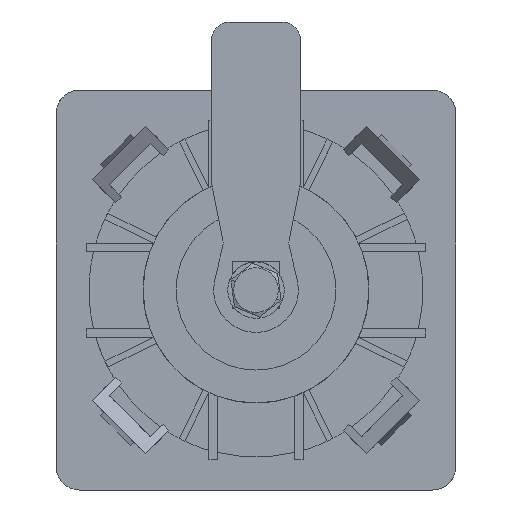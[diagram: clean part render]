
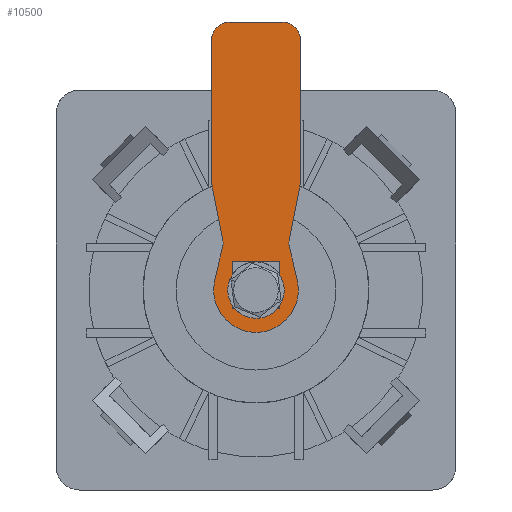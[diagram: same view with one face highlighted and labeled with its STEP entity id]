
A CAD part, front view. The second image highlights one B-rep face of the part: STEP entity #10500.
In plain terms, the highlighted planar face has unit normal (0, -1, 0) as drawn and (0, 0, -1) by its records, which use the part's own axes.
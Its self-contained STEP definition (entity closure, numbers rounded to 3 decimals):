
#844 = CARTESIAN_POINT ( 'NONE',  ( 0., 0., 0. ) ) ;
#851 = DIRECTION ( 'NONE',  ( 0., 0., -1. ) ) ;
#852 = DIRECTION ( 'NONE',  ( -1., 0., 0. ) ) ;
#854 = CARTESIAN_POINT ( 'NONE',  ( 10., 9.5, 0. ) ) ;
#862 = CARTESIAN_POINT ( 'NONE',  ( 10., -9.5, 0. ) ) ;
#863 = DIRECTION ( 'NONE',  ( 0., 0., 1. ) ) ;
#864 = DIRECTION ( 'NONE',  ( -1., 0., 0. ) ) ;
#868 = DIRECTION ( 'NONE',  ( 0., 0., 1. ) ) ;
#869 = DIRECTION ( 'NONE',  ( -1., 0., 0. ) ) ;
#900 = CARTESIAN_POINT ( 'NONE',  ( 10., -9.5, 0. ) ) ;
#917 = CARTESIAN_POINT ( 'NONE',  ( 10., 9.5, 0. ) ) ;
#918 = DIRECTION ( 'NONE',  ( -1., 0., 0. ) ) ;
#919 = CARTESIAN_POINT ( 'NONE',  ( 2.018, 8.771, 0. ) ) ;
#922 = CARTESIAN_POINT ( 'NONE',  ( 0., 0., 0. ) ) ;
#923 = DIRECTION ( 'NONE',  ( 1., 0., 0. ) ) ;
#926 = DIRECTION ( 'NONE',  ( 0., 0., -1. ) ) ;
#927 = DIRECTION ( 'NONE',  ( -1., 0., 0. ) ) ;
#928 = CARTESIAN_POINT ( 'NONE',  ( 10.481, 7.047, 0. ) ) ;
#929 = DIRECTION ( 'NONE',  ( 0.981, 0.192, 0. ) ) ;
#930 = CARTESIAN_POINT ( 'NONE',  ( 23., -9.5, 0. ) ) ;
#931 = DIRECTION ( 'NONE',  ( -0.981, 0.192, 0. ) ) ;
#932 = CARTESIAN_POINT ( 'NONE',  ( 9.44, -7.064, 0. ) ) ;
#933 = DIRECTION ( 'NONE',  ( -0.975, -0.224, 0. ) ) ;
#939 = DIRECTION ( 'NONE',  ( 0.975, -0.224, 0. ) ) ;
#945 = CARTESIAN_POINT ( 'NONE',  ( 10., 5., 0. ) ) ;
#947 = CARTESIAN_POINT ( 'NONE',  ( 53., 5.5, 0. ) ) ;
#951 = DIRECTION ( 'NONE',  ( 0., 0., -1. ) ) ;
#952 = DIRECTION ( 'NONE',  ( -1., 0., 0. ) ) ;
#953 = CARTESIAN_POINT ( 'NONE',  ( 57., -9.5, 0. ) ) ;
#954 = DIRECTION ( 'NONE',  ( 0., -1., 0. ) ) ;
#956 = CARTESIAN_POINT ( 'NONE',  ( -4., -9.5, 0. ) ) ;
#957 = DIRECTION ( 'NONE',  ( 0., -1., 0. ) ) ;
#958 = CARTESIAN_POINT ( 'NONE',  ( 53., -5.5, 0. ) ) ;
#959 = DIRECTION ( 'NONE',  ( -1., 0., 0. ) ) ;
#960 = CARTESIAN_POINT ( 'NONE',  ( 10., -5., 0. ) ) ;
#961 = DIRECTION ( 'NONE',  ( 0., 0., -1. ) ) ;
#962 = DIRECTION ( 'NONE',  ( -1., 0., 0. ) ) ;
#970 = DIRECTION ( 'NONE',  ( 1., 0., 0. ) ) ;
#973 = CARTESIAN_POINT ( 'NONE',  ( 6., -9.5, 0. ) ) ;
#976 = DIRECTION ( 'NONE',  ( 0., 1., 0. ) ) ;
#2396 = VERTEX_POINT ( 'NONE', #3779 ) ;
#2397 = VERTEX_POINT ( 'NONE', #3778 ) ;
#2398 = VERTEX_POINT ( 'NONE', #3777 ) ;
#2399 = VERTEX_POINT ( 'NONE', #3776 ) ;
#2400 = VERTEX_POINT ( 'NONE', #3775 ) ;
#2401 = VERTEX_POINT ( 'NONE', #3774 ) ;
#2402 = VERTEX_POINT ( 'NONE', #3773 ) ;
#2403 = VERTEX_POINT ( 'NONE', #3772 ) ;
#2404 = VERTEX_POINT ( 'NONE', #3771 ) ;
#2405 = VERTEX_POINT ( 'NONE', #3770 ) ;
#2406 = VERTEX_POINT ( 'NONE', #4199 ) ;
#2418 = VERTEX_POINT ( 'NONE', #3759 ) ;
#2419 = VERTEX_POINT ( 'NONE', #3758 ) ;
#2422 = VERTEX_POINT ( 'NONE', #3754 ) ;
#2423 = VERTEX_POINT ( 'NONE', #3753 ) ;
#2490 = VERTEX_POINT ( 'NONE', #3682 ) ;
#2491 = VERTEX_POINT ( 'NONE', #3681 ) ;
#2868 = EDGE_CURVE ( 'NONE', #2490, #2491, #11706, .T. ) ;
#2872 = EDGE_CURVE ( 'NONE', #2418, #2419, #11712, .T. ) ;
#2874 = EDGE_CURVE ( 'NONE', #2422, #2423, #11716, .T. ) ;
#2896 = EDGE_CURVE ( 'NONE', #2405, #2406, #11753, .T. ) ;
#2898 = EDGE_CURVE ( 'NONE', #2403, #2402, #11728, .T. ) ;
#2900 = EDGE_CURVE ( 'NONE', #2491, #2404, #11763, .T. ) ;
#2901 = EDGE_CURVE ( 'NONE', #2419, #2403, #11734, .T. ) ;
#2902 = EDGE_CURVE ( 'NONE', #2406, #2422, #11764, .T. ) ;
#2903 = EDGE_CURVE ( 'NONE', #2423, #2490, #11766, .T. ) ;
#2906 = EDGE_CURVE ( 'NONE', #2404, #2418, #11762, .T. ) ;
#2912 = EDGE_CURVE ( 'NONE', #2402, #2401, #11787, .T. ) ;
#2913 = EDGE_CURVE ( 'NONE', #2401, #2400, #11779, .T. ) ;
#2914 = EDGE_CURVE ( 'NONE', #2398, #2397, #11788, .T. ) ;
#2915 = EDGE_CURVE ( 'NONE', #2399, #2398, #11786, .T. ) ;
#2916 = EDGE_CURVE ( 'NONE', #2400, #2405, #11794, .T. ) ;
#2920 = EDGE_CURVE ( 'NONE', #2397, #2396, #11796, .T. ) ;
#2923 = EDGE_CURVE ( 'NONE', #2396, #2399, #11795, .T. ) ;
#3681 = CARTESIAN_POINT ( 'NONE',  ( -9., 0., 0. ) ) ;
#3682 = CARTESIAN_POINT ( 'NONE',  ( 2.018, -8.771, 0. ) ) ;
#3753 = CARTESIAN_POINT ( 'NONE',  ( 9.44, -7.064, 0. ) ) ;
#3754 = CARTESIAN_POINT ( 'NONE',  ( 10.481, -7.047, 0. ) ) ;
#3758 = CARTESIAN_POINT ( 'NONE',  ( 10.481, 7.047, 0. ) ) ;
#3759 = CARTESIAN_POINT ( 'NONE',  ( 9.44, 7.064, 0. ) ) ;
#3770 = CARTESIAN_POINT ( 'NONE',  ( 53., -9.5, 0. ) ) ;
#3771 = CARTESIAN_POINT ( 'NONE',  ( 2.018, 8.771, 0. ) ) ;
#3772 = CARTESIAN_POINT ( 'NONE',  ( 23., 9.5, 0. ) ) ;
#3773 = CARTESIAN_POINT ( 'NONE',  ( 53., 9.5, 0. ) ) ;
#3774 = CARTESIAN_POINT ( 'NONE',  ( 57., 5.5, 0. ) ) ;
#3775 = CARTESIAN_POINT ( 'NONE',  ( 57., -5.5, 0. ) ) ;
#3776 = CARTESIAN_POINT ( 'NONE',  ( 6., 5., 0. ) ) ;
#3777 = CARTESIAN_POINT ( 'NONE',  ( -4., 5., 0. ) ) ;
#3778 = CARTESIAN_POINT ( 'NONE',  ( -4., -5., 0. ) ) ;
#3779 = CARTESIAN_POINT ( 'NONE',  ( 6., -5., 0. ) ) ;
#4199 = CARTESIAN_POINT ( 'NONE',  ( 23., -9.5, 0. ) ) ;
#4352 = ORIENTED_EDGE ( 'NONE', *, *, #2914, .T. ) ;
#4381 = ORIENTED_EDGE ( 'NONE', *, *, #2913, .T. ) ;
#4382 = ORIENTED_EDGE ( 'NONE', *, *, #2896, .T. ) ;
#4383 = ORIENTED_EDGE ( 'NONE', *, *, #2874, .T. ) ;
#4384 = ORIENTED_EDGE ( 'NONE', *, *, #2902, .T. ) ;
#4385 = ORIENTED_EDGE ( 'NONE', *, *, #2898, .T. ) ;
#4386 = ORIENTED_EDGE ( 'NONE', *, *, #2912, .T. ) ;
#4388 = ORIENTED_EDGE ( 'NONE', *, *, #2916, .T. ) ;
#4389 = ORIENTED_EDGE ( 'NONE', *, *, #2872, .T. ) ;
#4390 = ORIENTED_EDGE ( 'NONE', *, *, #2903, .T. ) ;
#4391 = ORIENTED_EDGE ( 'NONE', *, *, #2868, .T. ) ;
#4393 = ORIENTED_EDGE ( 'NONE', *, *, #2900, .T. ) ;
#4395 = ORIENTED_EDGE ( 'NONE', *, *, #2906, .T. ) ;
#4397 = ORIENTED_EDGE ( 'NONE', *, *, #2901, .T. ) ;
#4423 = ORIENTED_EDGE ( 'NONE', *, *, #2915, .T. ) ;
#4426 = ORIENTED_EDGE ( 'NONE', *, *, #2923, .T. ) ;
#4430 = ORIENTED_EDGE ( 'NONE', *, *, #2920, .T. ) ;
#5623 = EDGE_LOOP ( 'NONE', ( #4430, #4426, #4423, #4352 ) ) ;
#5698 = EDGE_LOOP ( 'NONE', ( #4381, #4388, #4382, #4384, #4383, #4390, #4391, #4393, #4395, #4389, #4397, #4385, #4386 ) ) ;
#8356 = FACE_OUTER_BOUND ( 'NONE', #5698, .T. ) ;
#8370 = AXIS2_PLACEMENT_3D ( 'NONE', #922, #926, #927 ) ;
#8416 = FACE_BOUND ( 'NONE', #5623, .T. ) ;
#8475 = AXIS2_PLACEMENT_3D ( 'NONE', #947, #951, #952 ) ;
#8497 = AXIS2_PLACEMENT_3D ( 'NONE', #958, #961, #962 ) ;
#8534 = AXIS2_PLACEMENT_3D ( 'NONE', #854, #863, #864 ) ;
#8538 = AXIS2_PLACEMENT_3D ( 'NONE', #862, #868, #869 ) ;
#8555 = AXIS2_PLACEMENT_3D ( 'NONE', #844, #851, #852 ) ;
#8813 = AXIS2_PLACEMENT_3D ( 'NONE', #9162, #9175, #9176 ) ;
#9162 = CARTESIAN_POINT ( 'NONE',  ( 10., -9.5, 0. ) ) ;
#9166 = PLANE ( 'NONE',  #8813 ) ;
#9175 = DIRECTION ( 'NONE',  ( 0., 0., -1. ) ) ;
#9176 = DIRECTION ( 'NONE',  ( -1., 0., 0. ) ) ;
#10500 = ADVANCED_FACE ( 'NONE', ( #8416, #8356 ), #9166, .T. ) ;
#11706 = CIRCLE ( 'NONE', #8555, 9. ) ;
#11712 = CIRCLE ( 'NONE', #8534, 2.5 ) ;
#11716 = CIRCLE ( 'NONE', #8538, 2.5 ) ;
#11728 = LINE ( 'NONE', #917, #11757 ) ;
#11734 = LINE ( 'NONE', #928, #11752 ) ;
#11739 = VECTOR ( 'NONE', #918, 1000. ) ;
#11752 = VECTOR ( 'NONE', #929, 1000. ) ;
#11753 = LINE ( 'NONE', #900, #11739 ) ;
#11757 = VECTOR ( 'NONE', #923, 1000. ) ;
#11762 = LINE ( 'NONE', #919, #11772 ) ;
#11763 = CIRCLE ( 'NONE', #8370, 9. ) ;
#11764 = LINE ( 'NONE', #930, #11765 ) ;
#11765 = VECTOR ( 'NONE', #931, 1000. ) ;
#11766 = LINE ( 'NONE', #932, #11767 ) ;
#11767 = VECTOR ( 'NONE', #933, 1000. ) ;
#11772 = VECTOR ( 'NONE', #939, 1000. ) ;
#11773 = VECTOR ( 'NONE', #954, 1000. ) ;
#11779 = LINE ( 'NONE', #953, #11773 ) ;
#11786 = LINE ( 'NONE', #945, #11790 ) ;
#11787 = CIRCLE ( 'NONE', #8475, 4. ) ;
#11788 = LINE ( 'NONE', #956, #11789 ) ;
#11789 = VECTOR ( 'NONE', #957, 1000. ) ;
#11790 = VECTOR ( 'NONE', #959, 1000. ) ;
#11794 = CIRCLE ( 'NONE', #8497, 4. ) ;
#11795 = LINE ( 'NONE', #973, #11804 ) ;
#11796 = LINE ( 'NONE', #960, #11798 ) ;
#11798 = VECTOR ( 'NONE', #970, 1000. ) ;
#11804 = VECTOR ( 'NONE', #976, 1000. ) ;
